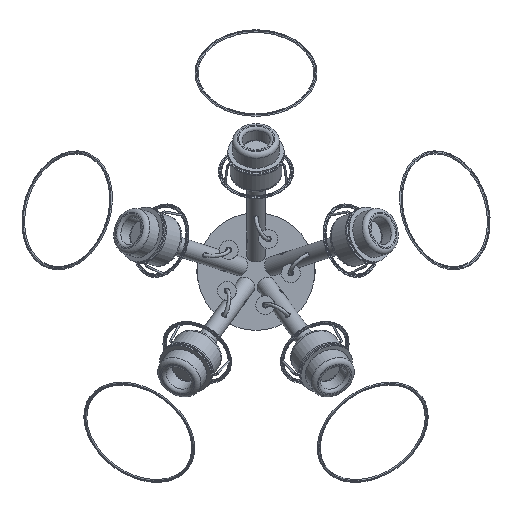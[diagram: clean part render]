
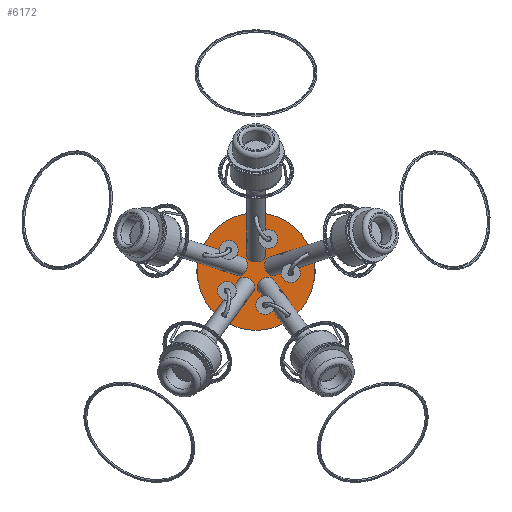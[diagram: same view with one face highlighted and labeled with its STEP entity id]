
A CAD part, front view. The second image highlights one B-rep face of the part: STEP entity #6172.
In plain terms, the highlighted planar face has unit normal (0, -1, 0).
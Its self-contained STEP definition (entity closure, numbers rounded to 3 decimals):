
#449=PLANE('',#6810);
#739=FACE_OUTER_BOUND('',#1199,.T.);
#1199=EDGE_LOOP('',(#4680));
#2378=CIRCLE('',#6808,62.5);
#2892=VERTEX_POINT('',#10384);
#3560=EDGE_CURVE('',#2892,#2892,#2378,.T.);
#4680=ORIENTED_EDGE('',*,*,#3560,.F.);
#6172=ADVANCED_FACE('',(#739),#449,.F.);
#6808=AXIS2_PLACEMENT_3D('',#10386,#8024,#8025);
#6810=AXIS2_PLACEMENT_3D('',#10388,#8028,#8029);
#8024=DIRECTION('center_axis',(0.,1.,0.));
#8025=DIRECTION('ref_axis',(-1.,0.,0.));
#8028=DIRECTION('center_axis',(0.,1.,0.));
#8029=DIRECTION('ref_axis',(-1.,0.,0.));
#10384=CARTESIAN_POINT('',(62.5,416.33,35.));
#10386=CARTESIAN_POINT('Origin',(0.,416.33,35.));
#10388=CARTESIAN_POINT('Origin',(0.,416.33,35.));
